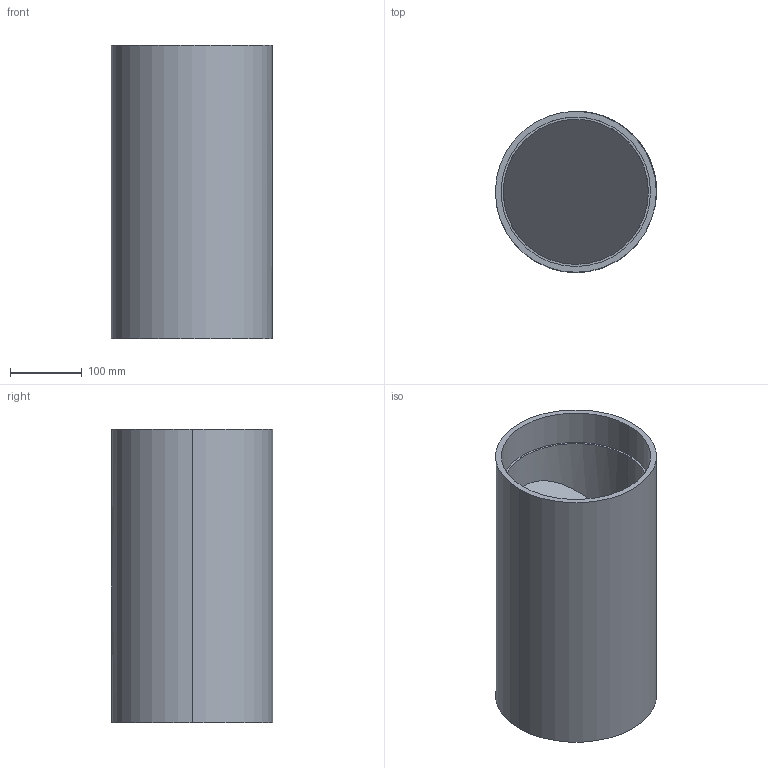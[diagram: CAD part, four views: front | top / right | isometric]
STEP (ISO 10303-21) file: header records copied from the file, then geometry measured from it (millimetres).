
FILE_DESCRIPTION (( 'STEP AP214' ), '1' );
FILE_NAME ('CF-IL-G5-S0225-NN-316-IDP.STEP', '2023-03-21T12:26:38', ( '' ), ( '' ), 'SwSTEP 2.0', 'SolidWorks 2022', '' );
FILE_SCHEMA (( 'AUTOMOTIVE_DESIGN' ));
Length unit declared in the file: millimetre
Products named in the file (3): CF-IL-G5-S0225-NN-316-IDP; Clamp- 225_CM-0250-B; CF-IL-G5-S0225-NN-316-IDP_CM-0100-B
Assembly tree (2 placements, depth 2):
  CF-IL-G5-S0225-NN-316-IDP
    CF-IL-G5-S0225-NN-316-IDP_CM-0100-B
    Clamp- 225_CM-0250-B
Bounding box: 225.5 x 225.5 x 410 mm (x, y, z)
Volume: 3193303.7 mm3; surface area: 724708.2 mm2
Topology: 6 solids, 6 shells, 1625 faces, 4775 edges, 3199 vertices
Faces by surface type: plane 677, bspline 670, cylinder 143, cone 135
Entity records: 74142 total; most frequent: CARTESIAN_POINT 22579, ORIENTED_EDGE 9550, EDGE_CURVE 4775, DIRECTION 4730, VERTEX_POINT 3199, B_SPLINE_CURVE_WITH_KNOTS 2276, VECTOR 2138, LINE 2138
